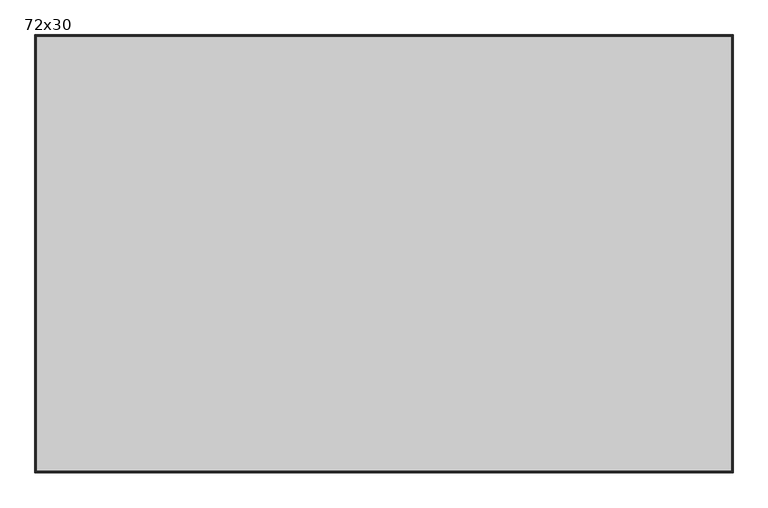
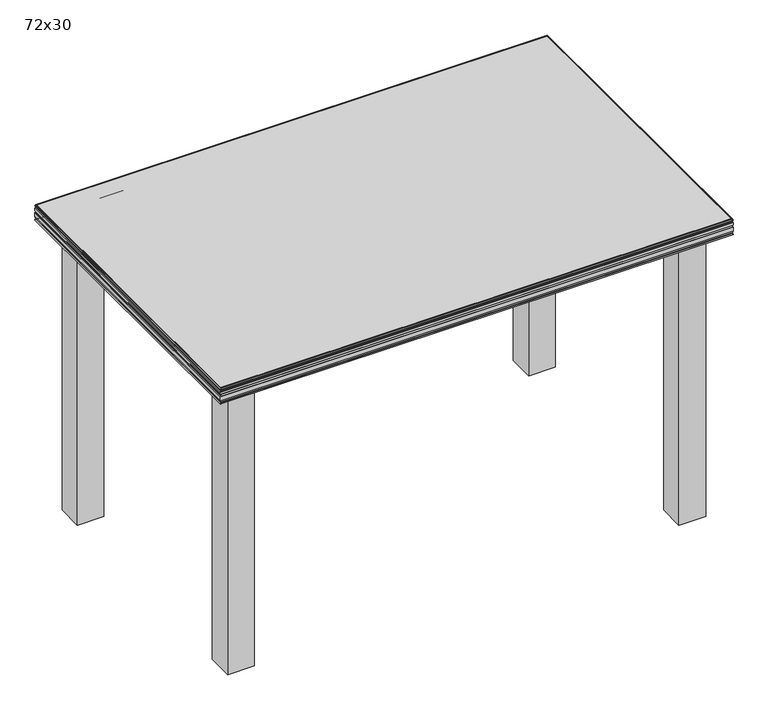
"""IFC4 building model written with IfcOpenShell, lengths in millimetres: furniture geometry, Mesa Glendo 1.20X.75 : 72x30."""

from ifc_helpers import new_model, si_unit, frame, origin, origin_with_axes, place, context, project, spatial, polyline, ellipse_curve, outline, extrude, source, transform, mapped, element, save
from ifc_brep_helpers import plane_surface, cylinder_surface, revolved_surface, advanced_brep


def furniture_72x30_bd351fa5(model_context):
    return source(origin(), model_context, "Body", "SolidModel", [
        extrude(outline(polyline([(-508.0, 342.9), (-508.0, 279.4), (-571.5, 279.4), (-571.5, 342.9), (-508.0, 342.9)])), origin_with_axes(), (0.0, 0.0, 1.0), 723.9),
        extrude(outline(polyline([(507.0, 342.9), (570.5, 342.9), (570.5, 279.4), (507.0, 279.4), (507.0, 342.9)])), origin_with_axes(), (0.0, 0.0, 1.0), 723.9),
        extrude(outline(polyline([(-508.0, -342.9), (-571.5, -342.9), (-571.5, -279.4), (-508.0, -279.4), (-508.0, -342.9)])), origin_with_axes(), (0.0, 0.0, 1.0), 723.9),
        extrude(outline(polyline([(507.0, -342.9), (507.0, -279.4), (570.5, -279.4), (570.5, -342.9), (507.0, -342.9)])), origin_with_axes(), (0.0, 0.0, 1.0), 723.9),
        advanced_brep(
        [(-609.6, 381.0, 723.291978), (-609.6, 381.0, 762.0), (-609.6, -381.0, 762.0), (-609.6, -381.0, 723.291978), (-611.1357936, 382.5357936, 724.9718339), (-612.5425374, 383.9425374, 723.291978), (-612.5425374, -383.9425374, 723.291978), (-611.1357936, -382.5357936, 724.9718339), (-611.1357936, 382.5357936, 727.4891966), (-611.1357936, -382.5357936, 727.4891966), (-611.8366792, 383.2366792, 728.1900822), (-611.8366792, -383.2366792, 728.1900822), (-612.5375648, 383.9375648, 731.0537872), (-612.5375648, -383.9375648, 731.0537872), (-612.5375648, 383.9375648, 741.5909678), (-612.5375648, -383.9375648, 741.5909678), (-611.8366792, 383.2366792, 742.0817332), (-611.8366792, -383.2366792, 742.0817332), (-611.8366792, 383.2366792, 746.4820858), (-611.8366792, -383.2366792, 746.4820858), (-612.5375648, 383.9375648, 747.1829714), (-612.5375648, -383.9375648, 747.1829714), (-612.5375648, 383.9375648, 752.8097673), (-612.5375648, -383.9375648, 752.8097673), (-611.5675495, 382.9675495, 754.1650844), (-611.5675495, -382.9675495, 754.1650844), (-611.2094075, 382.6094075, 755.8695635), (-611.2094075, -382.6094075, 755.8695635), (-612.4324396, 383.8324396, 758.4257958), (-612.4324396, -383.8324396, 758.4257958), (-611.8483862, 383.2483862, 761.3108214), (-611.8483862, -383.2483862, 761.3108214), (-611.1592076, 382.5592076, 762.0), (-611.1592076, -382.5592076, 762.0), (609.6, -381.0, 762.0), (609.6, -381.0, 723.291978), (612.5425374, -383.9425374, 723.291978), (611.1357936, -382.5357936, 724.9718339), (611.1357936, -382.5357936, 727.4891966), (611.8366792, -383.2366792, 728.1900822), (612.5375648, -383.9375648, 731.0537872), (612.5375648, -383.9375648, 741.5909678), (611.8366792, -383.2366792, 742.0817332), (611.8366792, -383.2366792, 746.4820858), (612.5375648, -383.9375648, 747.1829714), (612.5375648, -383.9375648, 752.8097673), (611.5675495, -382.9675495, 754.1650844), (611.2094075, -382.6094075, 755.8695635), (612.4324396, -383.8324396, 758.4257958), (611.8483862, -383.2483862, 761.3108214), (611.1592076, -382.5592076, 762.0), (609.6, 381.0, 723.291978), (609.6, 381.0, 762.0), (611.1357936, 382.5357936, 724.9718339), (612.5425374, 383.9425374, 723.291978), (611.1357936, 382.5357936, 727.4891966), (611.8366792, 383.2366792, 728.1900822), (612.5375648, 383.9375648, 731.0537872), (612.5375648, 383.9375648, 741.5909678), (611.8366792, 383.2366792, 742.0817332), (611.8366792, 383.2366792, 746.4820858), (612.5375648, 383.9375648, 747.1829714), (612.5375648, 383.9375648, 752.8097673), (611.5675495, 382.9675495, 754.1650844), (611.2094075, 382.6094075, 755.8695635), (612.4324396, 383.8324396, 758.4257958), (611.8483862, 383.2483862, 761.3108214), (611.1592076, 382.5592076, 762.0)],
        [
            (0, 1),
            (1, 2),
            (2, 3),
            (3, 0),
            (4, 5, ellipse_curve(frame((-611.1771715, 382.5771715, 723.5775394), z_axis=(-0.7071067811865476, -0.7071067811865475, 0.0), x_axis=(-0.7071067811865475, 0.7071067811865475, 0.0)), 1.9726983, 1.3949083)),
            (5, 6),
            (6, 7, ellipse_curve(frame((-611.1771715, -382.5771715, 723.5775394), z_axis=(-0.7071067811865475, 0.7071067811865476, 0.0), x_axis=(0.7071067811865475, 0.7071067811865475, 0.0)), 1.9726983, 1.3949083)),
            (7, 4),
            (8, 4),
            (7, 9),
            (9, 8),
            (10, 8),
            (9, 11),
            (11, 10),
            (12, 10, ellipse_curve(frame((-604.0666828, 375.4666828, 731.6093946), z_axis=(-0.7071067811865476, -0.7071067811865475, 0.0), x_axis=(-0.7071067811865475, 0.7071067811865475, 0.0)), 12.0053772, 8.4890836)),
            (11, 13, ellipse_curve(frame((-604.0666828, -375.4666828, 731.6093946), z_axis=(-0.7071067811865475, 0.7071067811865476, 0.0), x_axis=(0.7071067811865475, 0.7071067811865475, 0.0)), 12.0053772, 8.4890836)),
            (13, 12),
            (14, 12),
            (13, 15),
            (15, 14),
            (16, 14),
            (15, 17),
            (17, 16),
            (18, 16, ellipse_curve(frame((-614.9316903, 386.3316903, 744.2819095), z_axis=(0.7071067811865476, 0.7071067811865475, 0.0), x_axis=(0.7071067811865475, -0.7071067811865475, 0.0)), 5.3702644, 3.7973504)),
            (17, 19, ellipse_curve(frame((-614.9316903, -386.3316903, 744.2819095), z_axis=(0.7071067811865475, -0.7071067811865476, 0.0), x_axis=(-0.7071067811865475, -0.7071067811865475, 0.0)), 5.3702644, 3.7973504)),
            (19, 18),
            (20, 18),
            (19, 21),
            (21, 20),
            (22, 20),
            (21, 23),
            (23, 22),
            (24, 22, ellipse_curve(frame((-610.9802517, 382.3802517, 752.7199651), z_axis=(-0.7071067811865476, -0.7071067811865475, 0.0), x_axis=(-0.7071067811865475, 0.7071067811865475, 0.0)), 2.2060319, 1.5599001)),
            (23, 25, ellipse_curve(frame((-610.9802517, -382.3802517, 752.7199651), z_axis=(-0.7071067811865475, 0.7071067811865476, 0.0), x_axis=(0.7071067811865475, 0.7071067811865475, 0.0)), 2.2060319, 1.5599001)),
            (25, 24),
            (26, 24, ellipse_curve(frame((-612.9780572, 384.3780572, 755.3513233), z_axis=(0.7071067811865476, 0.7071067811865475, 0.0), x_axis=(0.7071067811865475, -0.7071067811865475, 0.0)), 2.6064131, 1.8430124)),
            (25, 27, ellipse_curve(frame((-612.9780572, -384.3780572, 755.3513233), z_axis=(0.7071067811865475, -0.7071067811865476, 0.0), x_axis=(-0.7071067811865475, -0.7071067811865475, 0.0)), 2.6064131, 1.8430124)),
            (27, 26),
            (28, 26, ellipse_curve(frame((-606.8808081, 378.2808081, 759.5112834), z_axis=(-0.7071067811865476, -0.7071067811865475, 0.0), x_axis=(-0.7071067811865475, 0.7071067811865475, 0.0)), 7.999862, 5.6567567)),
            (27, 29, ellipse_curve(frame((-606.8808081, -378.2808081, 759.5112834), z_axis=(-0.7071067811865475, 0.7071067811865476, 0.0), x_axis=(0.7071067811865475, 0.7071067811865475, 0.0)), 7.999862, 5.6567567)),
            (29, 28),
            (30, 28, ellipse_curve(frame((-609.245563, 380.645563, 759.2822663), z_axis=(-0.7071067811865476, -0.7071067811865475, 0.0), x_axis=(-0.7071067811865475, 0.7071067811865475, 0.0)), 4.6668457, 3.2999583)),
            (29, 31, ellipse_curve(frame((-609.245563, -380.645563, 759.2822663), z_axis=(-0.7071067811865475, 0.7071067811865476, 0.0), x_axis=(0.7071067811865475, 0.7071067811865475, 0.0)), 4.6668457, 3.2999583)),
            (31, 30),
            (32, 30),
            (31, 33),
            (33, 32),
            (2, 34),
            (34, 35),
            (35, 3),
            (6, 36),
            (36, 37, ellipse_curve(frame((611.1771715, -382.5771715, 723.5775394), z_axis=(-0.7071067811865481, -0.7071067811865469, 0.0), x_axis=(-0.7071067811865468, 0.7071067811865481, 0.0)), 1.9726983, 1.3949083)),
            (37, 7),
            (37, 38),
            (38, 9),
            (38, 39),
            (39, 11),
            (39, 40, ellipse_curve(frame((604.0666828, -375.4666828, 731.6093946), z_axis=(-0.7071067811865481, -0.7071067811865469, 0.0), x_axis=(-0.7071067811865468, 0.7071067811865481, 0.0)), 12.0053772, 8.4890836)),
            (40, 13),
            (40, 41),
            (41, 15),
            (41, 42),
            (42, 17),
            (42, 43, ellipse_curve(frame((614.9316903, -386.3316903, 744.2819095), z_axis=(0.7071067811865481, 0.7071067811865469, 0.0), x_axis=(0.7071067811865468, -0.7071067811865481, 0.0)), 5.3702644, 3.7973504)),
            (43, 19),
            (43, 44),
            (44, 21),
            (44, 45),
            (45, 23),
            (45, 46, ellipse_curve(frame((610.9802517, -382.3802517, 752.7199651), z_axis=(-0.7071067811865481, -0.7071067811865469, 0.0), x_axis=(-0.7071067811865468, 0.7071067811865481, 0.0)), 2.2060319, 1.5599001)),
            (46, 25),
            (46, 47, ellipse_curve(frame((612.9780572, -384.3780572, 755.3513233), z_axis=(0.7071067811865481, 0.7071067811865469, 0.0), x_axis=(0.7071067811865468, -0.7071067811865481, 0.0)), 2.6064131, 1.8430124)),
            (47, 27),
            (47, 48, ellipse_curve(frame((606.8808081, -378.2808081, 759.5112834), z_axis=(-0.7071067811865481, -0.7071067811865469, 0.0), x_axis=(-0.7071067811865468, 0.7071067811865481, 0.0)), 7.999862, 5.6567567)),
            (48, 29),
            (48, 49, ellipse_curve(frame((609.245563, -380.645563, 759.2822663), z_axis=(-0.7071067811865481, -0.7071067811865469, 0.0), x_axis=(-0.7071067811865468, 0.7071067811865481, 0.0)), 4.6668457, 3.2999583)),
            (49, 31),
            (49, 50),
            (50, 33),
            (51, 52),
            (52, 1),
            (0, 51),
            (53, 54, ellipse_curve(frame((611.1771715, 382.5771715, 723.5775394), z_axis=(-0.7071067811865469, 0.7071067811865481, 0.0), x_axis=(0.7071067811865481, 0.7071067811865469, 0.0)), 1.9726983, 1.3949083)),
            (54, 5),
            (4, 53),
            (55, 53),
            (8, 55),
            (56, 55),
            (10, 56),
            (57, 56, ellipse_curve(frame((604.0666828, 375.4666828, 731.6093946), z_axis=(-0.7071067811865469, 0.7071067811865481, 0.0), x_axis=(0.7071067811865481, 0.7071067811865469, 0.0)), 12.0053772, 8.4890836)),
            (12, 57),
            (58, 57),
            (14, 58),
            (59, 58),
            (16, 59),
            (60, 59, ellipse_curve(frame((614.9316903, 386.3316903, 744.2819095), z_axis=(0.7071067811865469, -0.7071067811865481, 0.0), x_axis=(-0.7071067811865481, -0.7071067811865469, 0.0)), 5.3702644, 3.7973504)),
            (18, 60),
            (61, 60),
            (20, 61),
            (62, 61),
            (22, 62),
            (63, 62, ellipse_curve(frame((610.9802517, 382.3802517, 752.7199651), z_axis=(-0.7071067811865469, 0.7071067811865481, 0.0), x_axis=(0.7071067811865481, 0.7071067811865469, 0.0)), 2.2060319, 1.5599001)),
            (24, 63),
            (64, 63, ellipse_curve(frame((612.9780572, 384.3780572, 755.3513233), z_axis=(0.7071067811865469, -0.7071067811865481, 0.0), x_axis=(-0.7071067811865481, -0.7071067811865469, 0.0)), 2.6064131, 1.8430124)),
            (26, 64),
            (65, 64, ellipse_curve(frame((606.8808081, 378.2808081, 759.5112834), z_axis=(-0.7071067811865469, 0.7071067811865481, 0.0), x_axis=(0.7071067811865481, 0.7071067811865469, 0.0)), 7.999862, 5.6567567)),
            (28, 65),
            (66, 65, ellipse_curve(frame((609.245563, 380.645563, 759.2822663), z_axis=(-0.7071067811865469, 0.7071067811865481, 0.0), x_axis=(0.7071067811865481, 0.7071067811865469, 0.0)), 4.6668457, 3.2999583)),
            (30, 66),
            (67, 66),
            (32, 67),
            (50, 67),
            (52, 34),
            (51, 35),
            (54, 36),
            (53, 37),
            (55, 38),
            (56, 39),
            (57, 40),
            (58, 41),
            (59, 42),
            (60, 43),
            (61, 44),
            (62, 45),
            (63, 46),
            (64, 47),
            (65, 48),
            (66, 49),
        ],
        [
            plane_surface(frame((-609.6, 381.0, 762.0), z_axis=(1.0, 0.0, 0.0), x_axis=(0.0, -1.0, 0.0))),
            cylinder_surface(frame((-611.1771715, 381.0, 723.5775394), z_axis=(0.0, 1.0, 0.0), x_axis=(1.0, 0.0, 0.0)), 1.3949083),
            plane_surface(frame((-611.1357936, 382.5357936, 724.9718339), z_axis=(-1.0, 0.0, 0.0), x_axis=(0.0, -1.0, 0.0))),
            plane_surface(frame((-611.1357936, 382.5357936, 727.4891966), z_axis=(-0.707106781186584, 0.0, -0.707106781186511), x_axis=(0.0, -1.0, 0.0))),
            cylinder_surface(frame((-604.0666828, 381.0, 731.6093946), z_axis=(0.0, 1.0, 0.0), x_axis=(1.0, 0.0, 0.0)), 8.4890836),
            plane_surface(frame((-612.5375648, 383.9375648, 731.0537872), z_axis=(-1.0, 0.0, 0.0), x_axis=(0.0, -1.0, 0.0))),
            plane_surface(frame((-612.5375648, 383.9375648, 741.5909678), z_axis=(-0.5735764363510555, 0.0, 0.8191520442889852), x_axis=(0.0, -1.0, 0.0))),
            revolved_surface(polyline([(-611.1343399, -390.1290406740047, 744.2819095), (-611.1343399, 390.12904067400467, 744.2819095)]), (-614.9316903, 381.0, 744.2819095), (0.0, -1.0, 0.0)),
            plane_surface(frame((-611.8366792, 383.2366792, 746.4820858), z_axis=(-0.7071067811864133, 0.0, -0.7071067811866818), x_axis=(0.0, -1.0, 0.0))),
            plane_surface(frame((-612.5375648, 383.9375648, 747.1829714), z_axis=(-1.0, 0.0, 0.0), x_axis=(0.0, -1.0, 0.0))),
            cylinder_surface(frame((-610.9802517, 381.0, 752.7199651), z_axis=(0.0, 1.0, 0.0), x_axis=(1.0, 0.0, 0.0)), 1.5599001),
            revolved_surface(polyline([(-611.1350448, -386.22106957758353, 755.3513233), (-611.1350448, 386.2210695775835, 755.3513233)]), (-612.9780572, 381.0, 755.3513233), (0.0, -1.0, 0.0)),
            cylinder_surface(frame((-606.8808081, 381.0, 759.5112834), z_axis=(0.0, 1.0, 0.0), x_axis=(1.0, 0.0, 0.0)), 5.6567567),
            cylinder_surface(frame((-609.245563, 381.0, 759.2822663), z_axis=(0.0, 1.0, 0.0), x_axis=(1.0, 0.0, 0.0)), 3.2999583),
            plane_surface(frame((-611.8483862, 383.2483862, 761.3108214), z_axis=(-0.7071067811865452, 0.0, 0.7071067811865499), x_axis=(0.0, -1.0, 0.0))),
            plane_surface(frame((-609.6, -381.0, 762.0), z_axis=(0.0, 1.0, 0.0), x_axis=(1.0, 0.0, 0.0))),
            cylinder_surface(frame((-609.6, -382.5771715, 723.5775394), z_axis=(-1.0, 0.0, 0.0), x_axis=(0.0, 1.0, 0.0)), 1.3949083),
            plane_surface(frame((-611.1357936, -382.5357936, 724.9718339), z_axis=(0.0, -1.0, 0.0), x_axis=(1.0, 0.0, 0.0))),
            plane_surface(frame((-611.1357936, -382.5357936, 727.4891966), z_axis=(0.0, -0.7071067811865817, -0.7071067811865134), x_axis=(1.0, 0.0, 0.0))),
            cylinder_surface(frame((-609.6, -375.4666828, 731.6093946), z_axis=(-1.0, 0.0, 0.0), x_axis=(0.0, 1.0, 0.0)), 8.4890836),
            plane_surface(frame((-612.5375648, -383.9375648, 731.0537872), z_axis=(0.0, -1.0, 0.0), x_axis=(1.0, 0.0, 0.0))),
            plane_surface(frame((-612.5375648, -383.9375648, 741.5909678), z_axis=(0.0, -0.5735764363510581, 0.8191520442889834), x_axis=(1.0, 0.0, 0.0))),
            revolved_surface(polyline([(618.7290406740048, -382.53433989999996, 744.2819095), (-618.7290406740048, -382.53433989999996, 744.2819095)]), (-609.6, -386.3316903, 744.2819095), (1.0, 0.0, 0.0)),
            plane_surface(frame((-611.8366792, -383.2366792, 746.4820858), z_axis=(0.0, -0.707106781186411, -0.7071067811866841), x_axis=(1.0, 0.0, 0.0))),
            plane_surface(frame((-612.5375648, -383.9375648, 747.1829714), z_axis=(0.0, -1.0, 0.0), x_axis=(1.0, 0.0, 0.0))),
            cylinder_surface(frame((-609.6, -382.3802517, 752.7199651), z_axis=(-1.0, 0.0, 0.0), x_axis=(0.0, 1.0, 0.0)), 1.5599001),
            revolved_surface(polyline([(614.8210695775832, -382.5350448, 755.3513233), (-614.8210695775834, -382.5350448, 755.3513233)]), (-609.6, -384.3780572, 755.3513233), (1.0, 0.0, 0.0)),
            cylinder_surface(frame((-609.6, -378.2808081, 759.5112834), z_axis=(-1.0, 0.0, 0.0), x_axis=(0.0, 1.0, 0.0)), 5.6567567),
            cylinder_surface(frame((-609.6, -380.645563, 759.2822663), z_axis=(-1.0, 0.0, 0.0), x_axis=(0.0, 1.0, 0.0)), 3.2999583),
            plane_surface(frame((-611.8483862, -383.2483862, 761.3108214), z_axis=(0.0, -0.7071067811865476, 0.7071067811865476), x_axis=(1.0, 0.0, 0.0))),
            plane_surface(frame((609.6, 381.0, 762.0), z_axis=(0.0, -1.0, 0.0), x_axis=(-1.0, 0.0, 0.0))),
            cylinder_surface(frame((609.6, 382.5771715, 723.5775394), z_axis=(1.0, 0.0, 0.0), x_axis=(0.0, -1.0, 0.0)), 1.3949083),
            plane_surface(frame((611.1357936, 382.5357936, 724.9718339), z_axis=(0.0, 1.0, 0.0), x_axis=(-1.0, 0.0, 0.0))),
            plane_surface(frame((611.1357936, 382.5357936, 727.4891966), z_axis=(0.0, 0.7071067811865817, -0.7071067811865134), x_axis=(-1.0, 0.0, 0.0))),
            cylinder_surface(frame((609.6, 375.4666828, 731.6093946), z_axis=(1.0, 0.0, 0.0), x_axis=(0.0, -1.0, 0.0)), 8.4890836),
            plane_surface(frame((612.5375648, 383.9375648, 731.0537872), z_axis=(0.0, 1.0, 0.0), x_axis=(-1.0, 0.0, 0.0))),
            plane_surface(frame((612.5375648, 383.9375648, 741.5909678), z_axis=(0.0, 0.5735764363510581, 0.8191520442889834), x_axis=(-1.0, 0.0, 0.0))),
            revolved_surface(polyline([(-618.7290406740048, 382.53433989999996, 744.2819095), (618.7290406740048, 382.53433989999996, 744.2819095)]), (609.6, 386.3316903, 744.2819095), (-1.0, 0.0, 0.0)),
            plane_surface(frame((611.8366792, 383.2366792, 746.4820858), z_axis=(0.0, 0.707106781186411, -0.7071067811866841), x_axis=(-1.0, 0.0, 0.0))),
            plane_surface(frame((612.5375648, 383.9375648, 747.1829714), z_axis=(0.0, 1.0, 0.0), x_axis=(-1.0, 0.0, 0.0))),
            cylinder_surface(frame((609.6, 382.3802517, 752.7199651), z_axis=(1.0, 0.0, 0.0), x_axis=(0.0, -1.0, 0.0)), 1.5599001),
            revolved_surface(polyline([(-614.8210695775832, 382.5350448, 755.3513233), (614.8210695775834, 382.5350448, 755.3513233)]), (609.6, 384.3780572, 755.3513233), (-1.0, 0.0, 0.0)),
            cylinder_surface(frame((609.6, 378.2808081, 759.5112834), z_axis=(1.0, 0.0, 0.0), x_axis=(0.0, -1.0, 0.0)), 5.6567567),
            cylinder_surface(frame((609.6, 380.645563, 759.2822663), z_axis=(1.0, 0.0, 0.0), x_axis=(0.0, -1.0, 0.0)), 3.2999583),
            plane_surface(frame((611.8483862, 383.2483862, 761.3108214), z_axis=(0.0, 0.7071067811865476, 0.7071067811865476), x_axis=(-1.0, 0.0, 0.0))),
            plane_surface(frame((611.1592076, -382.5592076, 762.0), z_axis=(0.0, 0.0, 1.0), x_axis=(0.0, 1.0, 0.0))),
            plane_surface(frame((609.6, -381.0, 762.0), z_axis=(-1.0, 0.0, 0.0), x_axis=(0.0, 1.0, 0.0))),
            plane_surface(frame((609.6, -381.0, 723.291978), z_axis=(0.0, 0.0, -1.0), x_axis=(0.0, 1.0, 0.0))),
            cylinder_surface(frame((611.1771715, -381.0, 723.5775394), z_axis=(0.0, -1.0, 0.0), x_axis=(-1.0, 0.0, 0.0)), 1.3949083),
            plane_surface(frame((611.1357936, -382.5357936, 724.9718339), z_axis=(1.0, 0.0, 0.0), x_axis=(0.0, 1.0, 0.0))),
            plane_surface(frame((611.1357936, -382.5357936, 727.4891966), z_axis=(0.7071067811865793, 0.0, -0.7071067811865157), x_axis=(0.0, 1.0, 0.0))),
            cylinder_surface(frame((604.0666828, -381.0, 731.6093946), z_axis=(0.0, -1.0, 0.0), x_axis=(-1.0, 0.0, 0.0)), 8.4890836),
            plane_surface(frame((612.5375648, -383.9375648, 731.0537872), z_axis=(1.0, 0.0, 0.0), x_axis=(0.0, 1.0, 0.0))),
            plane_surface(frame((612.5375648, -383.9375648, 741.5909678), z_axis=(0.5735764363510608, 0.0, 0.8191520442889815), x_axis=(0.0, 1.0, 0.0))),
            revolved_surface(polyline([(611.1343399, 390.1290406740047, 744.2819095), (611.1343399, -390.1290406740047, 744.2819095)]), (614.9316903, -381.0, 744.2819095), (0.0, 1.0, 0.0)),
            plane_surface(frame((611.8366792, -383.2366792, 746.4820858), z_axis=(0.7071067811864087, 0.0, -0.7071067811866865), x_axis=(0.0, 1.0, 0.0))),
            plane_surface(frame((612.5375648, -383.9375648, 747.1829714), z_axis=(1.0, 0.0, 0.0), x_axis=(0.0, 1.0, 0.0))),
            cylinder_surface(frame((610.9802517, -381.0, 752.7199651), z_axis=(0.0, -1.0, 0.0), x_axis=(-1.0, 0.0, 0.0)), 1.5599001),
            revolved_surface(polyline([(611.1350448, 386.22106957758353, 755.3513233), (611.1350448, -386.2210695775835, 755.3513233)]), (612.9780572, -381.0, 755.3513233), (0.0, 1.0, 0.0)),
            cylinder_surface(frame((606.8808081, -381.0, 759.5112834), z_axis=(0.0, -1.0, 0.0), x_axis=(-1.0, 0.0, 0.0)), 5.6567567),
            cylinder_surface(frame((609.245563, -381.0, 759.2822663), z_axis=(0.0, -1.0, 0.0), x_axis=(-1.0, 0.0, 0.0)), 3.2999583),
            plane_surface(frame((611.8483862, -383.2483862, 761.3108214), z_axis=(0.7071067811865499, 0.0, 0.7071067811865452), x_axis=(0.0, 1.0, 0.0))),
        ],
        [
            (0, [[1, 2, 3, 4]]),
            (1, [[5, 6, 7, 8]]),
            (2, [[9, -8, 10, 11]]),
            (3, [[12, -11, 13, 14]]),
            (4, [[15, -14, 16, 17]]),
            (5, [[18, -17, 19, 20]]),
            (6, [[21, -20, 22, 23]]),
            (7, [[24, -23, 25, 26]]),
            (8, [[27, -26, 28, 29]]),
            (9, [[30, -29, 31, 32]]),
            (10, [[33, -32, 34, 35]]),
            (11, [[36, -35, 37, 38]]),
            (12, [[39, -38, 40, 41]]),
            (13, [[42, -41, 43, 44]]),
            (14, [[45, -44, 46, 47]]),
            (15, [[-3, 48, 49, 50]]),
            (16, [[-7, 51, 52, 53]]),
            (17, [[-10, -53, 54, 55]]),
            (18, [[-13, -55, 56, 57]]),
            (19, [[-16, -57, 58, 59]]),
            (20, [[-19, -59, 60, 61]]),
            (21, [[-22, -61, 62, 63]]),
            (22, [[-25, -63, 64, 65]]),
            (23, [[-28, -65, 66, 67]]),
            (24, [[-31, -67, 68, 69]]),
            (25, [[-34, -69, 70, 71]]),
            (26, [[-37, -71, 72, 73]]),
            (27, [[-40, -73, 74, 75]]),
            (28, [[-43, -75, 76, 77]]),
            (29, [[-46, -77, 78, 79]]),
            (30, [[80, 81, -1, 82]]),
            (31, [[83, 84, -5, 85]]),
            (32, [[86, -85, -9, 87]]),
            (33, [[88, -87, -12, 89]]),
            (34, [[90, -89, -15, 91]]),
            (35, [[92, -91, -18, 93]]),
            (36, [[94, -93, -21, 95]]),
            (37, [[96, -95, -24, 97]]),
            (38, [[98, -97, -27, 99]]),
            (39, [[100, -99, -30, 101]]),
            (40, [[102, -101, -33, 103]]),
            (41, [[104, -103, -36, 105]]),
            (42, [[106, -105, -39, 107]]),
            (43, [[108, -107, -42, 109]]),
            (44, [[110, -109, -45, 111]]),
            (45, [[112, -111, -47, -79], [113, -48, -2, -81]]),
            (46, [[-49, -113, -80, 114]]),
            (47, [[115, -51, -6, -84], [-114, -82, -4, -50]]),
            (48, [[-52, -115, -83, 116]]),
            (49, [[-54, -116, -86, 117]]),
            (50, [[-56, -117, -88, 118]]),
            (51, [[-58, -118, -90, 119]]),
            (52, [[-60, -119, -92, 120]]),
            (53, [[-62, -120, -94, 121]]),
            (54, [[-64, -121, -96, 122]]),
            (55, [[-66, -122, -98, 123]]),
            (56, [[-68, -123, -100, 124]]),
            (57, [[-70, -124, -102, 125]]),
            (58, [[-72, -125, -104, 126]]),
            (59, [[-74, -126, -106, 127]]),
            (60, [[-76, -127, -108, 128]]),
            (61, [[-78, -128, -110, -112]]),
        ],
    ),
        extrude(outline(polyline([(610.4, 381.0), (610.4, -381.0), (-609.6, -381.0), (-609.6, 381.0), (610.4, 381.0)])), frame((0.0, 0.0, 723.9), z_axis=(0.0, 0.0, 1.0), x_axis=(1.0, 0.0, 0.0)), (0.0, 0.0, 1.0), 38.1),
    ])


if __name__ == "__main__":
    model = new_model("IFC4")
    model_context = context("Model", 3, world=origin())
    ifc_project = project(units=[si_unit("LENGTHUNIT", "METRE", prefix="MILLI")], contexts=[model_context])
    site = spatial("IfcSite", under=ifc_project)
    building = spatial("IfcBuilding", under=site)
    placement = place(None, origin())
    furniture_72x30_shape = furniture_72x30_bd351fa5(model_context)
    element("IfcFurniture", 1, ObjectType="Mesa Glendo 1.20X.75 : 72x30", at=placement, inside=building, context=model_context, shape_type="MappedRepresentation", body=[
        mapped(furniture_72x30_shape, transform((0.0, 0.0, 0.0), x_axis=(1.0, 0.0, 0.0), y_axis=(0.0, 1.0, 0.0), z_axis=(0.0, 0.0, 1.0))),
    ])
    save(model, "model.ifc")
